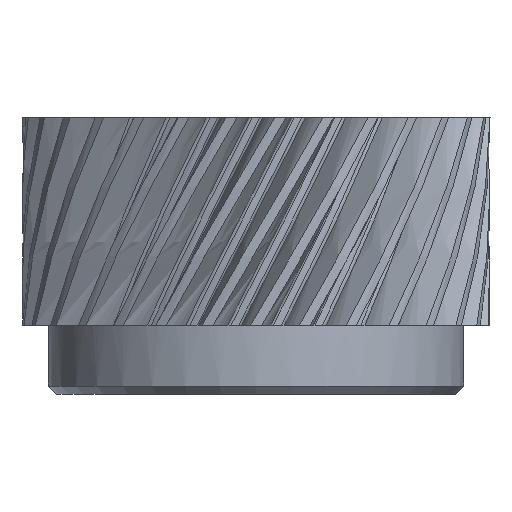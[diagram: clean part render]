
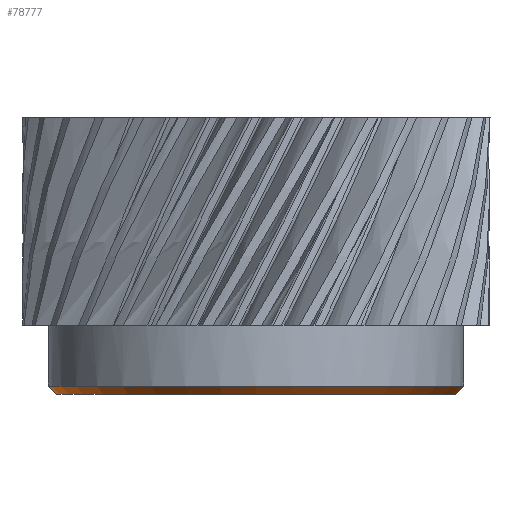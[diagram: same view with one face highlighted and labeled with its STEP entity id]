
A CAD part, left-side view. The second image highlights one B-rep face of the part: STEP entity #78777.
In plain terms, the highlighted conical face has half-angle 45 degrees and reference radius 14.4 mm.
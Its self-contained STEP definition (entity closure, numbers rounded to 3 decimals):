
#2031 = ORIENTED_EDGE ( 'NONE', *, *, #107965, .F. ) ;
#2647 = CARTESIAN_POINT ( 'NONE',  ( 0., 15., 0.6 ) ) ;
#8015 = CARTESIAN_POINT ( 'NONE',  ( 0., 0., 0. ) ) ;
#8327 = FACE_OUTER_BOUND ( 'NONE', #67937, .T. ) ;
#14426 = VERTEX_POINT ( 'NONE', #113320 ) ;
#16939 = DIRECTION ( 'NONE',  ( 0., -1., 0. ) ) ;
#18030 = AXIS2_PLACEMENT_3D ( 'NONE', #114518, #114134, #51952 ) ;
#18203 = EDGE_CURVE ( 'NONE', #108501, #14426, #86393, .T. ) ;
#18776 = CIRCLE ( 'NONE', #98396, 14.4 ) ;
#21477 = LINE ( 'NONE', #74194, #68431 ) ;
#24274 = ORIENTED_EDGE ( 'NONE', *, *, #65316, .F. ) ;
#25290 = CIRCLE ( 'NONE', #18030, 15. ) ;
#27348 = DIRECTION ( 'NONE',  ( 0., 0., -1. ) ) ;
#33899 = ORIENTED_EDGE ( 'NONE', *, *, #18203, .T. ) ;
#51952 = DIRECTION ( 'NONE',  ( 0., 1., 0. ) ) ;
#56976 = DIRECTION ( 'NONE',  ( 0., -0.707, 0.707 ) ) ;
#62487 = DIRECTION ( 'NONE',  ( 0., 1., 0. ) ) ;
#64182 = DIRECTION ( 'NONE',  ( 0., 0.707, 0.707 ) ) ;
#65083 = VERTEX_POINT ( 'NONE', #2647 ) ;
#65316 = EDGE_CURVE ( 'NONE', #108501, #114436, #18776, .T. ) ;
#67937 = EDGE_LOOP ( 'NONE', ( #107584, #24274, #33899, #2031 ) ) ;
#68398 = VECTOR ( 'NONE', #56976, 1000. ) ;
#68431 = VECTOR ( 'NONE', #64182, 1000. ) ;
#69874 = DIRECTION ( 'NONE',  ( 0., 0., 1. ) ) ;
#71503 = CARTESIAN_POINT ( 'NONE',  ( 0., 14.4, 0. ) ) ;
#74194 = CARTESIAN_POINT ( 'NONE',  ( 0., 14.4, 0. ) ) ;
#78777 = ADVANCED_FACE ( 'NONE', ( #8327 ), #110746, .T. ) ;
#79475 = CARTESIAN_POINT ( 'NONE',  ( 0., 0., 0. ) ) ;
#83196 = CARTESIAN_POINT ( 'NONE',  ( 0., -14.4, 0. ) ) ;
#83888 = CARTESIAN_POINT ( 'NONE',  ( 0., -14.4, 0. ) ) ;
#83915 = AXIS2_PLACEMENT_3D ( 'NONE', #8015, #69874, #16939 ) ;
#86393 = LINE ( 'NONE', #83196, #68398 ) ;
#93997 = EDGE_CURVE ( 'NONE', #114436, #65083, #21477, .T. ) ;
#98396 = AXIS2_PLACEMENT_3D ( 'NONE', #79475, #27348, #62487 ) ;
#107584 = ORIENTED_EDGE ( 'NONE', *, *, #93997, .F. ) ;
#107965 = EDGE_CURVE ( 'NONE', #65083, #14426, #25290, .T. ) ;
#108501 = VERTEX_POINT ( 'NONE', #83888 ) ;
#110746 = CONICAL_SURFACE ( 'NONE', #83915, 14.4, 0.785 ) ;
#113320 = CARTESIAN_POINT ( 'NONE',  ( 0., -15., 0.6 ) ) ;
#114134 = DIRECTION ( 'NONE',  ( 0., 0., 1. ) ) ;
#114436 = VERTEX_POINT ( 'NONE', #71503 ) ;
#114518 = CARTESIAN_POINT ( 'NONE',  ( 0., 0., 0.6 ) ) ;
